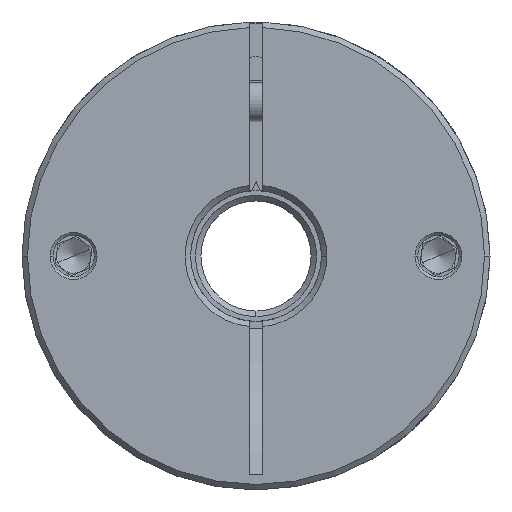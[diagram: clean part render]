
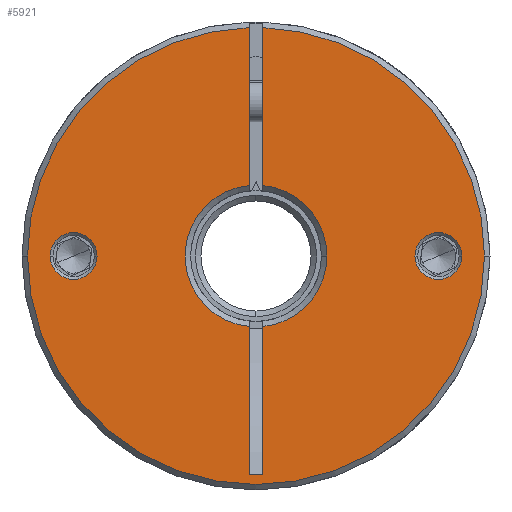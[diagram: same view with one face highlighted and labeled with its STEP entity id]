
A CAD part, front view. The second image highlights one B-rep face of the part: STEP entity #5921.
In plain terms, the highlighted planar face has unit normal (0, -1, 0).
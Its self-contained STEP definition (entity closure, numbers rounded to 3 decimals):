
#45 = ORIENTED_EDGE ( 'NONE', *, *, #4671, .T. ) ;
#215 = DIRECTION ( 'NONE',  ( 1., 0., 0. ) ) ;
#239 = VERTEX_POINT ( 'NONE', #3378 ) ;
#384 = VERTEX_POINT ( 'NONE', #9013 ) ;
#412 = VECTOR ( 'NONE', #670, 1000. ) ;
#426 = VECTOR ( 'NONE', #7525, 1000. ) ;
#496 = CARTESIAN_POINT ( 'NONE',  ( -3.735, -47.045, 36.279 ) ) ;
#670 = DIRECTION ( 'NONE',  ( -1., 0., 0. ) ) ;
#783 = DIRECTION ( 'NONE',  ( 1., 0., 0. ) ) ;
#790 = CARTESIAN_POINT ( 'NONE',  ( -1.735, -47.045, 78.251 ) ) ;
#826 = EDGE_CURVE ( 'NONE', #8562, #239, #7239, .T. ) ;
#950 = CARTESIAN_POINT ( 'NONE',  ( -3.735, -47.045, 57.749 ) ) ;
#1017 = CARTESIAN_POINT ( 'NONE',  ( -2.735, -47.045, 68. ) ) ;
#1195 = ORIENTED_EDGE ( 'NONE', *, *, #4303, .T. ) ;
#1281 = CIRCLE ( 'NONE', #1630, 33.2 ) ;
#1283 = DIRECTION ( 'NONE',  ( 1., 0., 0. ) ) ;
#1284 = DIRECTION ( 'NONE',  ( 1., 0., 0. ) ) ;
#1301 = EDGE_CURVE ( 'NONE', #2021, #384, #3123, .T. ) ;
#1325 = CARTESIAN_POINT ( 'NONE',  ( -2.735, -47.045, 68. ) ) ;
#1498 = DIRECTION ( 'NONE',  ( 1., 0., 0. ) ) ;
#1630 = AXIS2_PLACEMENT_3D ( 'NONE', #3431, #6503, #215 ) ;
#1645 = DIRECTION ( 'NONE',  ( 0., 0., -1. ) ) ;
#1653 = ORIENTED_EDGE ( 'NONE', *, *, #3986, .T. ) ;
#1735 = ORIENTED_EDGE ( 'NONE', *, *, #5516, .T. ) ;
#1818 = AXIS2_PLACEMENT_3D ( 'NONE', #12292, #6009, #783 ) ;
#1876 = CIRCLE ( 'NONE', #8732, 33.2 ) ;
#1957 = CIRCLE ( 'NONE', #1818, 10.3 ) ;
#2021 = VERTEX_POINT ( 'NONE', #4274 ) ;
#2237 = ORIENTED_EDGE ( 'NONE', *, *, #11705, .T. ) ;
#2268 = VECTOR ( 'NONE', #11875, 1000. ) ;
#2346 = DIRECTION ( 'NONE',  ( 0., -1., 0. ) ) ;
#2426 = EDGE_CURVE ( 'NONE', #8562, #5554, #1957, .T. ) ;
#2491 = CARTESIAN_POINT ( 'NONE',  ( -1.735, -47.045, 68. ) ) ;
#2515 = EDGE_LOOP ( 'NONE', ( #9522, #11237 ) ) ;
#2529 = DIRECTION ( 'NONE',  ( 1., 0., 0. ) ) ;
#2551 = VERTEX_POINT ( 'NONE', #9538 ) ;
#2583 = VERTEX_POINT ( 'NONE', #12648 ) ;
#2873 = VERTEX_POINT ( 'NONE', #8034 ) ;
#2997 = DIRECTION ( 'NONE',  ( 0., 1., 0. ) ) ;
#3035 = ORIENTED_EDGE ( 'NONE', *, *, #826, .F. ) ;
#3123 = CIRCLE ( 'NONE', #10059, 3.4 ) ;
#3232 = EDGE_CURVE ( 'NONE', #4190, #2583, #12260, .T. ) ;
#3378 = CARTESIAN_POINT ( 'NONE',  ( -3.735, -47.045, 36.279 ) ) ;
#3431 = CARTESIAN_POINT ( 'NONE',  ( -2.735, -47.045, 68. ) ) ;
#3518 = CARTESIAN_POINT ( 'NONE',  ( -1.735, -47.045, 101.185 ) ) ;
#3732 = ORIENTED_EDGE ( 'NONE', *, *, #9392, .T. ) ;
#3986 = EDGE_CURVE ( 'NONE', #10111, #9598, #9284, .T. ) ;
#4116 = CARTESIAN_POINT ( 'NONE',  ( 7.565, -47.045, 68. ) ) ;
#4135 = LINE ( 'NONE', #13587, #9062 ) ;
#4190 = VERTEX_POINT ( 'NONE', #8248 ) ;
#4194 = VERTEX_POINT ( 'NONE', #12280 ) ;
#4274 = CARTESIAN_POINT ( 'NONE',  ( 27.165, -47.045, 68. ) ) ;
#4303 = EDGE_CURVE ( 'NONE', #11797, #10286, #9115, .T. ) ;
#4365 = CIRCLE ( 'NONE', #13320, 3.4 ) ;
#4477 = DIRECTION ( 'NONE',  ( 0., 1., 0. ) ) ;
#4671 = EDGE_CURVE ( 'NONE', #9598, #4190, #9435, .T. ) ;
#4744 = CARTESIAN_POINT ( 'NONE',  ( -3.735, -47.045, 68. ) ) ;
#4751 = CARTESIAN_POINT ( 'NONE',  ( -25.835, -47.045, 68. ) ) ;
#4981 = CARTESIAN_POINT ( 'NONE',  ( -2.735, -47.045, 68. ) ) ;
#5516 = EDGE_CURVE ( 'NONE', #2873, #4194, #1876, .T. ) ;
#5554 = VERTEX_POINT ( 'NONE', #12842 ) ;
#5830 = LINE ( 'NONE', #11814, #426 ) ;
#5921 = ADVANCED_FACE ( 'NONE', ( #12541, #9603, #8606 ), #10284, .T. ) ;
#5949 = ORIENTED_EDGE ( 'NONE', *, *, #3232, .T. ) ;
#5973 = EDGE_CURVE ( 'NONE', #2551, #2873, #11375, .T. ) ;
#6009 = DIRECTION ( 'NONE',  ( 0., 1., 0. ) ) ;
#6211 = CIRCLE ( 'NONE', #7152, 3.4 ) ;
#6503 = DIRECTION ( 'NONE',  ( 0., -1., 0. ) ) ;
#6729 = DIRECTION ( 'NONE',  ( 0., 1., 0. ) ) ;
#6781 = EDGE_CURVE ( 'NONE', #8270, #10111, #4135, .T. ) ;
#7129 = DIRECTION ( 'NONE',  ( 1., 0., 0. ) ) ;
#7152 = AXIS2_PLACEMENT_3D ( 'NONE', #11864, #4477, #1284 ) ;
#7183 = DIRECTION ( 'NONE',  ( 1., 0., 0. ) ) ;
#7239 = LINE ( 'NONE', #4744, #9540 ) ;
#7376 = DIRECTION ( 'NONE',  ( 0., 1., 0. ) ) ;
#7525 = DIRECTION ( 'NONE',  ( 0., 0., -1. ) ) ;
#7732 = CARTESIAN_POINT ( 'NONE',  ( 23.765, -47.045, 68. ) ) ;
#7865 = ORIENTED_EDGE ( 'NONE', *, *, #5973, .T. ) ;
#8034 = CARTESIAN_POINT ( 'NONE',  ( -35.935, -47.045, 68. ) ) ;
#8099 = ORIENTED_EDGE ( 'NONE', *, *, #2426, .T. ) ;
#8236 = CARTESIAN_POINT ( 'NONE',  ( -2.735, -47.045, 68. ) ) ;
#8248 = CARTESIAN_POINT ( 'NONE',  ( -1.735, -47.045, 57.749 ) ) ;
#8262 = DIRECTION ( 'NONE',  ( 0., 1., 0. ) ) ;
#8270 = VERTEX_POINT ( 'NONE', #3518 ) ;
#8354 = ORIENTED_EDGE ( 'NONE', *, *, #6781, .T. ) ;
#8489 = DIRECTION ( 'NONE',  ( 0., 0., -1. ) ) ;
#8562 = VERTEX_POINT ( 'NONE', #950 ) ;
#8606 = FACE_OUTER_BOUND ( 'NONE', #10545, .T. ) ;
#8732 = AXIS2_PLACEMENT_3D ( 'NONE', #1325, #2346, #1283 ) ;
#8811 = DIRECTION ( 'NONE',  ( 0., 1., 0. ) ) ;
#9013 = CARTESIAN_POINT ( 'NONE',  ( 20.365, -47.045, 68. ) ) ;
#9062 = VECTOR ( 'NONE', #8489, 1000. ) ;
#9115 = CIRCLE ( 'NONE', #10438, 3.4 ) ;
#9284 = CIRCLE ( 'NONE', #11403, 10.3 ) ;
#9392 = EDGE_CURVE ( 'NONE', #10286, #11797, #6211, .T. ) ;
#9435 = CIRCLE ( 'NONE', #13434, 10.3 ) ;
#9482 = CARTESIAN_POINT ( 'NONE',  ( -29.235, -47.045, 68. ) ) ;
#9522 = ORIENTED_EDGE ( 'NONE', *, *, #1301, .T. ) ;
#9538 = CARTESIAN_POINT ( 'NONE',  ( -3.735, -47.045, 101.185 ) ) ;
#9540 = VECTOR ( 'NONE', #1645, 1000. ) ;
#9598 = VERTEX_POINT ( 'NONE', #4116 ) ;
#9603 = FACE_BOUND ( 'NONE', #11076, .T. ) ;
#9649 = EDGE_CURVE ( 'NONE', #4194, #8270, #1281, .T. ) ;
#9771 = CARTESIAN_POINT ( 'NONE',  ( -32.635, -47.045, 68. ) ) ;
#10059 = AXIS2_PLACEMENT_3D ( 'NONE', #13021, #6729, #1498 ) ;
#10111 = VERTEX_POINT ( 'NONE', #790 ) ;
#10284 = PLANE ( 'NONE',  #12652 ) ;
#10286 = VERTEX_POINT ( 'NONE', #9771 ) ;
#10387 = DIRECTION ( 'NONE',  ( 1., 0., 0. ) ) ;
#10435 = EDGE_CURVE ( 'NONE', #384, #2021, #4365, .T. ) ;
#10438 = AXIS2_PLACEMENT_3D ( 'NONE', #9482, #7376, #10387 ) ;
#10545 = EDGE_LOOP ( 'NONE', ( #12551, #7865, #1735, #10783, #8354, #1653, #45, #5949, #2237, #3035, #8099 ) ) ;
#10612 = DIRECTION ( 'NONE',  ( 0., -1., 0. ) ) ;
#10783 = ORIENTED_EDGE ( 'NONE', *, *, #9649, .T. ) ;
#10922 = EDGE_CURVE ( 'NONE', #2551, #5554, #5830, .T. ) ;
#11063 = LINE ( 'NONE', #496, #412 ) ;
#11076 = EDGE_LOOP ( 'NONE', ( #1195, #3732 ) ) ;
#11237 = ORIENTED_EDGE ( 'NONE', *, *, #10435, .T. ) ;
#11343 = DIRECTION ( 'NONE',  ( 0., -1., 0. ) ) ;
#11375 = CIRCLE ( 'NONE', #11512, 33.2 ) ;
#11403 = AXIS2_PLACEMENT_3D ( 'NONE', #4981, #8262, #12330 ) ;
#11512 = AXIS2_PLACEMENT_3D ( 'NONE', #11579, #10612, #12626 ) ;
#11579 = CARTESIAN_POINT ( 'NONE',  ( -2.735, -47.045, 68. ) ) ;
#11705 = EDGE_CURVE ( 'NONE', #2583, #239, #11063, .T. ) ;
#11797 = VERTEX_POINT ( 'NONE', #4751 ) ;
#11814 = CARTESIAN_POINT ( 'NONE',  ( -3.735, -47.045, 68. ) ) ;
#11864 = CARTESIAN_POINT ( 'NONE',  ( -29.235, -47.045, 68. ) ) ;
#11875 = DIRECTION ( 'NONE',  ( 0., 0., -1. ) ) ;
#12260 = LINE ( 'NONE', #2491, #2268 ) ;
#12280 = CARTESIAN_POINT ( 'NONE',  ( 30.465, -47.045, 68. ) ) ;
#12292 = CARTESIAN_POINT ( 'NONE',  ( -2.735, -47.045, 68. ) ) ;
#12330 = DIRECTION ( 'NONE',  ( 1., 0., 0. ) ) ;
#12541 = FACE_BOUND ( 'NONE', #2515, .T. ) ;
#12551 = ORIENTED_EDGE ( 'NONE', *, *, #10922, .F. ) ;
#12626 = DIRECTION ( 'NONE',  ( 1., 0., 0. ) ) ;
#12648 = CARTESIAN_POINT ( 'NONE',  ( -1.735, -47.045, 36.279 ) ) ;
#12652 = AXIS2_PLACEMENT_3D ( 'NONE', #1017, #11343, #7183 ) ;
#12842 = CARTESIAN_POINT ( 'NONE',  ( -3.735, -47.045, 78.251 ) ) ;
#13021 = CARTESIAN_POINT ( 'NONE',  ( 23.765, -47.045, 68. ) ) ;
#13320 = AXIS2_PLACEMENT_3D ( 'NONE', #7732, #8811, #2529 ) ;
#13434 = AXIS2_PLACEMENT_3D ( 'NONE', #8236, #2997, #7129 ) ;
#13587 = CARTESIAN_POINT ( 'NONE',  ( -1.735, -47.045, 68. ) ) ;
